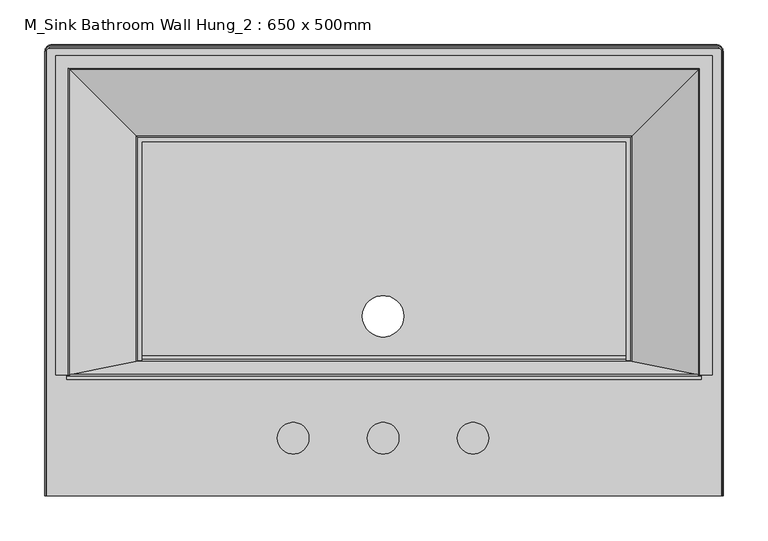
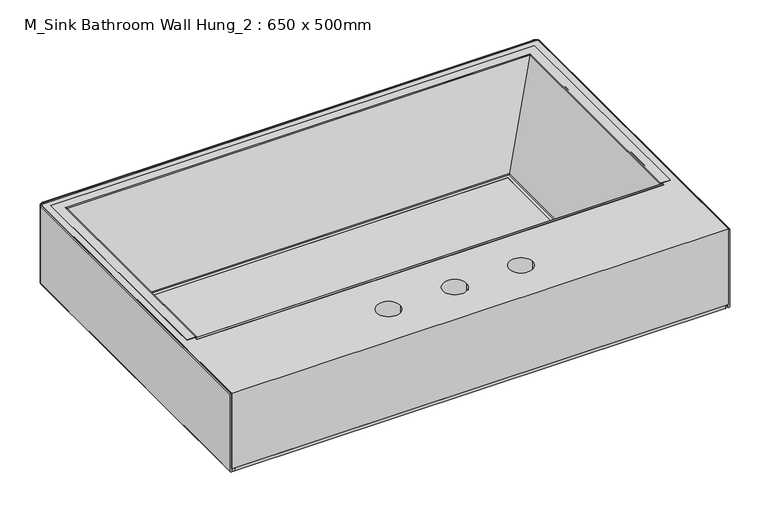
"""IFC4 building model written with IfcOpenShell, lengths in millimetres: flow terminal geometry, M_Sink Bathroom Wall Hung_2 : 650 x 500mm."""

import ifcopenshell
import ifcopenshell.guid

model = None  # the IFC model being written
_history = None  # IfcOwnerHistory: only IFC2X3 demands one
_inside = {}  # id of a spatial element -> (the spatial element, [elements in it])
_under = {}  # id of a project, library or spatial element -> (it, [spatial elements below it])
_declared = {}  # id of a project -> (the project, [libraries it declares])
_typed = {}  # id of a type object -> (the type object, [elements of that type])
_made_of = {}  # id of a material, layer set ... -> (it, [elements and type objects made of it])


def new_model(schema):
    """Start an empty IFC model of exactly this schema.

    Asked for "IFC4X3", IfcOpenShell would pick the latest addendum, in which some entities
    have other attributes; the version numbers below select the first issue.
    IFC2X3 requires an IfcOwnerHistory on every rooted entity: one is made here for all.
    """
    global model, _history
    if schema == "IFC4X3":
        model = ifcopenshell.file(schema_version=(4, 3, 0, 0))
    else:
        model = ifcopenshell.file(schema=schema)
    _inside.clear()
    _under.clear()
    _declared.clear()
    _typed.clear()
    _made_of.clear()
    _history = None
    if model.schema == "IFC2X3":
        org = make("IfcOrganization", Name="unknown")
        user = make(
            "IfcPersonAndOrganization",
            ThePerson=make("IfcPerson", FamilyName="unknown"),
            TheOrganization=org,
        )
        app = make(
            "IfcApplication",
            ApplicationDeveloper=org,
            Version="unknown",
            ApplicationFullName="unknown",
            ApplicationIdentifier="unknown",
        )
        _history = make(
            "IfcOwnerHistory",
            OwningUser=user,
            OwningApplication=app,
            ChangeAction="ADDED",
            CreationDate=0,
        )
    return model


def make(cls, **values):
    """One entity of the class cls with the attributes given. An attribute that is None is left unset."""
    return model.create_entity(
        cls, **{name: value for name, value in values.items() if value is not None}
    )


def rooted(cls, **values):
    """An entity with a GlobalId (a new one), such as an element, a storey or a relation."""
    return make(cls, GlobalId=ifcopenshell.guid.new(), OwnerHistory=_history, **values)


def si_unit(unit_type, name, prefix=None):
    """IfcSIUnit, for example si_unit("LENGTHUNIT", "METRE", prefix="MILLI")."""
    return make("IfcSIUnit", UnitType=unit_type, Prefix=prefix, Name=name)


def assignment(units):
    """IfcUnitAssignment: the units of a project."""
    return None if units is None else make("IfcUnitAssignment", Units=units)


def point(xyz):
    """IfcCartesianPoint."""
    return None if xyz is None else make("IfcCartesianPoint", Coordinates=xyz)


def direction(xyz):
    """IfcDirection."""
    return None if xyz is None else make("IfcDirection", DirectionRatios=xyz)


def frame(location, z_axis=None, x_axis=None):
    """IfcAxis2Placement3D, a coordinate frame: its origin and axes. An axis left out is left unset."""
    return make(
        "IfcAxis2Placement3D",
        Location=point(location),
        Axis=direction(z_axis),
        RefDirection=direction(x_axis),
    )


def frame_2d(location, x_axis=None):
    """IfcAxis2Placement2D, a coordinate frame in the plane: its origin and x axis."""
    return make(
        "IfcAxis2Placement2D", Location=point(location), RefDirection=direction(x_axis)
    )


def origin():
    """The frame at (0, 0, 0) with its axes left unset."""
    return frame((0.0, 0.0, 0.0))


def place(relative_to, where):
    """IfcLocalPlacement: puts the frame where relative to a parent placement (None: the world)."""
    return make(
        "IfcLocalPlacement", PlacementRelTo=relative_to, RelativePlacement=where
    )


def context(
    kind, dimensions, precision=None, world=None, true_north=None, identifier=None
):
    """IfcGeometricRepresentationContext, for example the 3D "Model" context."""
    return make(
        "IfcGeometricRepresentationContext",
        ContextIdentifier=identifier,
        ContextType=kind,
        CoordinateSpaceDimension=dimensions,
        Precision=precision,
        WorldCoordinateSystem=world,
        TrueNorth=true_north,
    )


def project(units=None, contexts=None):
    """IfcProject with its units and contexts."""
    return rooted(
        "IfcProject",
        Name="project",
        RepresentationContexts=contexts,
        UnitsInContext=assignment(units),
    )


def spatial(cls, under=None, at=None, **own):
    """A site, building, storey or space (cls), placed at a placement, below another one or the project."""
    s = rooted(cls, ObjectPlacement=at, **own)
    if under is not None:
        _under.setdefault(under.id(), (under, []))[1].append(s)
    return s


def polyline(points):
    """IfcPolyline through the points."""
    return make("IfcPolyline", Points=[point(p) for p in points])


def circle_curve(where, radius):
    """IfcCircle in the frame where."""
    return make("IfcCircle", Position=where, Radius=radius)


def ellipse_curve(where, semi_axis1, semi_axis2):
    """IfcEllipse in the frame where."""
    return make(
        "IfcEllipse", Position=where, SemiAxis1=semi_axis1, SemiAxis2=semi_axis2
    )


def trimmed(basis, trim1, trim2, sense, master):
    """IfcTrimmedCurve: the piece of a basis curve between two trims."""
    return make(
        "IfcTrimmedCurve",
        BasisCurve=basis,
        Trim1=trim1,
        Trim2=trim2,
        SenseAgreement=sense,
        MasterRepresentation=master,
    )


def segment(curve, same_sense, transition):
    """IfcCompositeCurveSegment."""
    return make(
        "IfcCompositeCurveSegment",
        Transition=transition,
        SameSense=same_sense,
        ParentCurve=curve,
    )


def composite_curve(segments, self_intersect=None):
    """IfcCompositeCurve: segments joined end to end."""
    return make("IfcCompositeCurve", Segments=segments, SelfIntersect=self_intersect)


def outline(outer, holes=None, kind="AREA"):
    """IfcArbitraryClosedProfileDef: a profile drawn as a closed curve; with holes, ...WithVoids."""
    if holes is None:
        return make("IfcArbitraryClosedProfileDef", ProfileType=kind, OuterCurve=outer)
    return make(
        "IfcArbitraryProfileDefWithVoids",
        ProfileType=kind,
        OuterCurve=outer,
        InnerCurves=holes,
    )


def extrude(swept, where, along, depth):
    """IfcExtrudedAreaSolid: the profile swept, set in the frame where, extruded along a direction by depth."""
    return make(
        "IfcExtrudedAreaSolid",
        SweptArea=swept,
        Position=where,
        ExtrudedDirection=direction(along),
        Depth=depth,
    )


def shape(context_of_items, identifier, shape_type, items):
    """IfcShapeRepresentation: the items that make up one representation, for example the "Body"."""
    return make(
        "IfcShapeRepresentation",
        ContextOfItems=context_of_items,
        RepresentationIdentifier=identifier,
        RepresentationType=shape_type,
        Items=items,
    )


def source(mapping_origin, context_of_items, identifier, shape_type, items):
    """IfcRepresentationMap: a shape defined once, which mapped items show again and again."""
    return make(
        "IfcRepresentationMap",
        MappingOrigin=mapping_origin,
        MappedRepresentation=shape(context_of_items, identifier, shape_type, items),
    )


def transform(
    local_origin,
    x_axis=None,
    y_axis=None,
    z_axis=None,
    scale=None,
    scale2=None,
    scale3=None,
    uniform=True,
):
    """IfcCartesianTransformationOperator3D, or its non-uniform kind. x_axis, y_axis, z_axis: its Axis1, 2, 3."""
    if uniform:
        return make(
            "IfcCartesianTransformationOperator3D",
            Axis1=direction(x_axis),
            Axis2=direction(y_axis),
            LocalOrigin=point(local_origin),
            Scale=scale,
            Axis3=direction(z_axis),
        )
    return make(
        "IfcCartesianTransformationOperator3DnonUniform",
        Axis1=direction(x_axis),
        Axis2=direction(y_axis),
        LocalOrigin=point(local_origin),
        Scale=scale,
        Axis3=direction(z_axis),
        Scale2=scale2,
        Scale3=scale3,
    )


def mapped(mapping_source, mapping_target):
    """IfcMappedItem: shows the shape of a source again, moved by a transform."""
    return make(
        "IfcMappedItem", MappingSource=mapping_source, MappingTarget=mapping_target
    )


def made_of(thing, what):
    """Note that an element or type object is made of a material, layer set ...; save() writes the relation."""
    if what is not None:
        _made_of.setdefault(what.id(), (what, []))[1].append(thing)
    return thing


def element(
    cls,
    number,
    at=None,
    inside=None,
    cuts=None,
    type_object=None,
    material=None,
    context=None,
    identifier="Body",
    shape_type=None,
    held_by="IfcProductDefinitionShape",
    body=None,
    shapes=None,
    **own,
):
    """One element of the class cls, such as IfcWall. Its Tag is "e" and its number.

    at: its placement. inside: the storey or other place that contains it. cuts: it is an
    opening in that element (IfcRelVoidsElement). A single representation is given by context,
    identifier, shape_type and body (its items); several are given by shapes. held_by: the class
    of the entity that holds the representations. save() writes the other relations.
    """
    e = rooted(cls, Tag="e%d" % number, ObjectPlacement=at, **own)
    if body is not None:
        shapes = [shape(context, identifier, shape_type, body)]
    if shapes is not None:
        e.Representation = make(held_by, Representations=shapes)
    if inside is not None:
        _inside.setdefault(inside.id(), (inside, []))[1].append(e)
    if cuts is not None:
        rooted(
            "IfcRelVoidsElement", RelatingBuildingElement=cuts, RelatedOpeningElement=e
        )
    if type_object is not None:
        _typed.setdefault(type_object.id(), (type_object, []))[1].append(e)
    return made_of(e, material)


def aggregate(whole, parts):
    """IfcRelAggregates: a whole, such as a stair, and the parts it consists of."""
    return rooted("IfcRelAggregates", RelatingObject=whole, RelatedObjects=parts)


def save(model, path):
    """Write the relations noted so far, then the file.

    IfcRelAggregates (storeys below a building ...), IfcRelContainedInSpatialStructure (elements
    in a storey), IfcRelDefinesByType, IfcRelAssociatesMaterial and IfcRelDeclares: one each for
    every whole, place, type object, material and project.
    """
    for whole, parts in _under.values():
        aggregate(whole, parts)
    for where, things in _inside.values():
        rooted(
            "IfcRelContainedInSpatialStructure",
            RelatedElements=things,
            RelatingStructure=where,
        )
    for kind, things in _typed.values():
        rooted("IfcRelDefinesByType", RelatedObjects=things, RelatingType=kind)
    for what, things in _made_of.values():
        rooted("IfcRelAssociatesMaterial", RelatedObjects=things, RelatingMaterial=what)
    for by, libraries in _declared.values():
        rooted("IfcRelDeclares", RelatingContext=by, RelatedDefinitions=libraries)
    model.write(path)


def plane_surface(at):
    """IfcPlane: the flat surface through the origin of the frame at, square to its z axis."""
    return make("IfcPlane", Position=at)


def cylinder_surface(at, radius):
    """IfcCylindricalSurface: all points at the distance radius from the z axis of the frame at."""
    return make("IfcCylindricalSurface", Position=at, Radius=radius)


def revolved_surface(curve, axis_point, axis_direction):
    """IfcSurfaceOfRevolution: the curve turned about the line through axis_point along axis_direction."""
    return make(
        "IfcSurfaceOfRevolution",
        SweptCurve=make("IfcArbitraryOpenProfileDef", ProfileType="CURVE", Curve=curve),
        AxisPosition=make("IfcAxis1Placement", Location=point(axis_point), Axis=direction(axis_direction)),
    )


def advanced_brep(points, edges, surfaces, faces):
    """IfcAdvancedBrep: a solid bounded by faces that lie on surfaces and meet in shared edges.

    An edge is (start, end): straight between two places in points (the first is 0);
    or (start, end, curve); or (start, end, curve, False) where it runs against its curve.
    A face is (place in surfaces, loops), or (place, loops, False) where it looks against
    its surface's normal. A loop lists edges by number (the first is 1), with a minus sign
    where the edge is run from its end to its start. The first loop is the outer one.
    """
    corners = [point(p) for p in points]
    vertices = [make("IfcVertexPoint", VertexGeometry=c) for c in corners]
    made = []
    for start, end, *more in edges:
        made.append(
            make(
                "IfcEdgeCurve",
                EdgeStart=vertices[start],
                EdgeEnd=vertices[end],
                EdgeGeometry=more[0] if more else make("IfcPolyline", Points=[corners[start], corners[end]]),
                SameSense=more[1] if len(more) > 1 else True,
            )
        )
    hull = []
    for where, loops, *sense in faces:
        bounds = []
        for j, loop in enumerate(loops):
            ring = [make("IfcOrientedEdge", EdgeElement=made[abs(k) - 1], Orientation=k > 0) for k in loop]
            bounds.append(
                make(
                    "IfcFaceOuterBound" if j == 0 else "IfcFaceBound",
                    Bound=make("IfcEdgeLoop", EdgeList=ring),
                    Orientation=True,
                )
            )
        hull.append(make("IfcAdvancedFace", Bounds=bounds, FaceSurface=surfaces[where], SameSense=sense[0] if sense else True))
    return make("IfcAdvancedBrep", Outer=make("IfcClosedShell", CfsFaces=hull))


def m_sink_bathroom_wall_hung_2_650_x_500mm_c227b566(model_context):
    return source(origin(), model_context, "Body", "SolidModel", [
        advanced_brep(
        [(-238.3922513, 210.0, 870.0), (-238.3922513, 210.0, 865.0), (-226.1634933, 210.0, 865.0), (-151.1371736, 210.0, 744.95758), (-143.0390224, 210.0, 744.95758), (-143.0390224, 210.0, 750.0), (-147.2839473, 210.0, 750.0), (-148.9799451, 210.0, 750.9400041), (-222.8047502, 210.0, 869.0599959), (-224.5007481, 210.0, 870.0), (-238.3922513, 564.8610413, 870.0), (-238.3922513, 564.8610413, 865.0), (491.3298313, 564.8610413, 865.0), (491.3298313, 210.0, 865.0), (479.1010733, 210.0, 865.0), (479.1010733, 552.6322833, 865.0), (-226.1634933, 552.6322833, 865.0), (-151.1371736, 477.6059636, 744.95758), (404.0747536, 477.6059636, 744.95758), (404.0747536, 210.0, 744.95758), (395.9766024, 210.0, 744.95758), (395.9766024, 469.5078124, 744.95758), (-143.0390224, 469.5078124, 744.95758), (-143.0390224, 469.5078124, 750.0), (395.9766024, 469.5078124, 750.0), (395.9766024, 210.0, 750.0), (400.2215273, 210.0, 750.0), (400.2215273, 473.7527373, 750.0), (-147.2839473, 473.7527373, 750.0), (-148.9799451, 475.4487351, 750.9400041), (-222.8047502, 549.2735402, 869.0599959), (-224.5007481, 550.9695381, 870.0), (477.4383281, 550.9695381, 870.0), (477.4383281, 210.0, 870.0), (491.3298313, 210.0, 870.0), (491.3298313, 564.8610413, 870.0), (401.9175251, 475.4487351, 750.9400041), (475.7423302, 549.2735402, 869.0599959), (475.7423302, 210.0, 869.0599959), (401.9175251, 210.0, 750.9400041)],
        [
            (0, 1),
            (1, 2),
            (2, 3),
            (3, 4),
            (4, 5),
            (5, 6),
            (6, 7, circle_curve(frame((-147.2839473, 210.0, 752.0), z_axis=(0.0, 1.0, 0.0), x_axis=(-1.0, 0.0, 0.0)), 2.0)),
            (7, 8),
            (8, 9, circle_curve(frame((-224.5007481, 210.0, 868.0), z_axis=(0.0, -1.0, 0.0), x_axis=(-1.0, 0.0, 0.0)), 2.0)),
            (9, 0),
            (0, 10),
            (10, 11),
            (11, 1),
            (11, 12),
            (12, 13),
            (13, 14),
            (14, 15),
            (15, 16),
            (16, 2),
            (16, 17),
            (17, 3),
            (17, 18),
            (18, 19),
            (19, 20),
            (20, 21),
            (21, 22),
            (22, 4),
            (22, 23),
            (23, 5),
            (23, 24),
            (24, 25),
            (25, 26),
            (26, 27),
            (27, 28),
            (28, 6),
            (28, 29, ellipse_curve(frame((-147.2839473, 473.7527373, 752.0), z_axis=(0.7071067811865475, 0.7071067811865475, 0.0), x_axis=(-0.7071067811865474, 0.7071067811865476, 0.0)), 2.8284271, 2.0)),
            (29, 7),
            (29, 30),
            (30, 8),
            (30, 31, ellipse_curve(frame((-224.5007481, 550.9695381, 868.0), z_axis=(-0.7071067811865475, -0.7071067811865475, 0.0), x_axis=(0.7071067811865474, -0.7071067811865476, 0.0)), 2.8284271, 2.0)),
            (31, 9),
            (31, 32),
            (32, 33),
            (33, 34),
            (34, 35),
            (35, 10),
            (35, 12),
            (15, 18),
            (21, 24),
            (27, 36, ellipse_curve(frame((400.2215273, 473.7527373, 752.0), z_axis=(0.7071067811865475, -0.7071067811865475, 0.0), x_axis=(0.7071067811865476, 0.7071067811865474, 0.0)), 2.8284271, 2.0)),
            (36, 29),
            (36, 37),
            (37, 30),
            (37, 32, ellipse_curve(frame((477.4383281, 550.9695381, 868.0), z_axis=(-0.7071067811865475, 0.7071067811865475, 0.0), x_axis=(-0.7071067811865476, -0.7071067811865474, 0.0)), 2.8284271, 2.0)),
            (33, 38, circle_curve(frame((477.4383281, 210.0, 868.0), z_axis=(0.0, -1.0, 0.0), x_axis=(1.0, 0.0, 0.0)), 2.0)),
            (38, 39),
            (39, 26, circle_curve(frame((400.2215273, 210.0, 752.0), z_axis=(0.0, 1.0, 0.0), x_axis=(1.0, 0.0, 0.0)), 2.0)),
            (25, 20),
            (19, 14),
            (13, 34),
            (39, 36),
            (38, 37),
        ],
        [
            plane_surface(frame((-223.53121, 210.0, 750.0), z_axis=(0.0, -1.0, 0.0), x_axis=(0.0, 0.0, 1.0))),
            plane_surface(frame((-238.3922513, 210.0, 870.0), z_axis=(-1.0, 0.0, 0.0), x_axis=(0.0, 1.0, 0.0))),
            plane_surface(frame((-238.3922513, 210.0, 865.0), z_axis=(0.0, 0.0, -1.0), x_axis=(0.0, 1.0, 0.0))),
            plane_surface(frame((-226.1634933, 210.0, 865.0), z_axis=(-0.847998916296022, 0.0, -0.5299979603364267), x_axis=(0.0, 1.0, 0.0))),
            plane_surface(frame((-151.1371736, 210.0, 744.95758), z_axis=(0.0, 0.0, -1.0), x_axis=(0.0, 1.0, 0.0))),
            plane_surface(frame((-143.0390224, 210.0, 744.95758), z_axis=(1.0, 0.0, 0.0), x_axis=(0.0, 1.0, 0.0))),
            plane_surface(frame((-143.0390224, 210.0, 750.0), z_axis=(0.0, 0.0, 1.0), x_axis=(0.0, 1.0, 0.0))),
            revolved_surface(polyline([(-149.2839473, 475.75273728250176, 752.0), (-149.2839473, 210.0, 752.0)]), (-147.2839473, 210.0, 752.0), (0.0, 1.0, 0.0)),
            plane_surface(frame((-148.9799451, 210.0, 750.9400041), z_axis=(0.8479989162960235, 0.0, 0.529997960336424), x_axis=(0.0, 1.0, 0.0))),
            cylinder_surface(frame((-224.5007481, 210.0, 868.0), z_axis=(0.0, -1.0, 0.0), x_axis=(-1.0, 0.0, 0.0)), 2.0),
            plane_surface(frame((-224.5007481, 210.0, 870.0), z_axis=(0.0, 0.0, 1.0), x_axis=(0.0, 1.0, 0.0))),
            plane_surface(frame((-238.3922513, 564.8610413, 870.0), z_axis=(0.0, 1.0, 0.0), x_axis=(1.0, 0.0, 0.0))),
            plane_surface(frame((-226.1634933, 552.6322833, 865.0), z_axis=(0.0, 0.8479989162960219, -0.5299979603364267), x_axis=(1.0, 0.0, 0.0))),
            plane_surface(frame((-143.0390224, 469.5078124, 744.95758), z_axis=(0.0, -1.0, 0.0), x_axis=(1.0, 0.0, 0.0))),
            revolved_surface(polyline([(402.2215272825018, 475.7527373, 752.0), (-149.2839472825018, 475.7527373, 752.0)]), (-223.53121, 473.7527373, 752.0), (1.0, 0.0, 0.0)),
            plane_surface(frame((-148.9799451, 475.4487351, 750.9400041), z_axis=(0.0, -0.8479989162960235, 0.529997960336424), x_axis=(1.0, 0.0, 0.0))),
            cylinder_surface(frame((-223.53121, 550.9695381, 868.0), z_axis=(-1.0, 0.0, 0.0), x_axis=(0.0, 1.0, 0.0)), 2.0),
            plane_surface(frame((476.46879, 210.0, 750.0), z_axis=(0.0, -1.0, 0.0), x_axis=(0.0, 0.0, 1.0))),
            plane_surface(frame((491.3298313, 564.8610413, 870.0), z_axis=(1.0, 0.0, 0.0), x_axis=(0.0, -1.0, 0.0))),
            plane_surface(frame((479.1010733, 552.6322833, 865.0), z_axis=(0.8479989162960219, 0.0, -0.5299979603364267), x_axis=(0.0, -1.0, 0.0))),
            plane_surface(frame((395.9766024, 469.5078124, 744.95758), z_axis=(-1.0, 0.0, 0.0), x_axis=(0.0, -1.0, 0.0))),
            revolved_surface(polyline([(402.2215273, 210.0, 752.0), (402.2215273, 475.7527372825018, 752.0)]), (400.2215273, 550.0, 752.0), (0.0, -1.0, 0.0)),
            plane_surface(frame((401.9175251, 475.4487351, 750.9400041), z_axis=(-0.8479989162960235, 0.0, 0.529997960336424), x_axis=(0.0, -1.0, 0.0))),
            cylinder_surface(frame((477.4383281, 550.0, 868.0), z_axis=(0.0, 1.0, 0.0), x_axis=(1.0, 0.0, 0.0)), 2.0),
        ],
        [
            (0, [[1, 2, 3, 4, 5, 6, 7, 8, 9, 10]]),
            (1, [[-1, 11, 12, 13]]),
            (2, [[-2, -13, 14, 15, 16, 17, 18, 19]]),
            (3, [[-3, -19, 20, 21]]),
            (4, [[-4, -21, 22, 23, 24, 25, 26, 27]]),
            (5, [[-5, -27, 28, 29]]),
            (6, [[-6, -29, 30, 31, 32, 33, 34, 35]]),
            (7, [[-7, -35, 36, 37]]),
            (8, [[-8, -37, 38, 39]]),
            (9, [[-9, -39, 40, 41]]),
            (10, [[-10, -41, 42, 43, 44, 45, 46, -11]]),
            (11, [[-12, -46, 47, -14]]),
            (12, [[-20, -18, 48, -22]]),
            (13, [[-28, -26, 49, -30]]),
            (14, [[-36, -34, 50, 51]]),
            (15, [[-38, -51, 52, 53]]),
            (16, [[-40, -53, 54, -42]]),
            (17, [[-44, 55, 56, 57, -32, 58, -24, 59, -16, 60]]),
            (18, [[-47, -45, -60, -15]]),
            (19, [[-48, -17, -59, -23]]),
            (20, [[-49, -25, -58, -31]]),
            (21, [[-50, -33, -57, 61]]),
            (22, [[-52, -61, -56, 62]]),
            (23, [[-54, -62, -55, -43]]),
        ],
    ),
        extrude(outline(composite_curve([segment(polyline([(210.1022771, 868.2507881), (224.827107, 751.7492119)]), True, "CONTINUOUS"), segment(trimmed(circle_curve(frame_2d((226.811321, 752.0)), 2.0), [point((224.827107, 751.7492119))], [point((226.811321, 750.0))], True, "CARTESIAN"), True, "CONTINUOUS"), segment(polyline([(226.811321, 750.0), (230.6855127, 750.0), (230.6855127, 744.95758), (220.6855127, 744.95758), (204.8811913, 870.0), (208.1180631, 870.0)]), True, "CONTINUOUS"), segment(trimmed(circle_curve(frame_2d((208.1180631, 868.0)), 2.0), [point((208.1180631, 870.0))], [point((210.1022771, 868.2507881))], False, "CARTESIAN"), True, "CONTINUOUS")], self_intersect=False)), frame((-226.1634933, 0.0, 0.0), z_axis=(1.0, 0.0, 0.0), x_axis=(0.0, 1.0, 0.0)), (0.0, 0.0, 1.0), 705.2645665),
        extrude(outline(composite_curve([segment(trimmed(circle_curve(frame_2d((498.46879, 570.0)), 3.0), [point((498.46879, 573.0))], [point((501.46879, 570.0))], False, "CARTESIAN"), True, "CONTINUOUS"), segment(polyline([(501.46879, 570.0), (501.46879, 75.0), (-248.53121, 75.0), (-248.53121, 570.0)]), True, "CONTINUOUS"), segment(trimmed(circle_curve(frame_2d((-245.53121, 570.0)), 3.0), [point((-248.53121, 570.0))], [point((-245.53121, 573.0))], False, "CARTESIAN"), True, "CONTINUOUS"), segment(polyline([(-245.53121, 573.0), (498.46879, 573.0)]), True, "CONTINUOUS")], self_intersect=False), holes=[composite_curve([segment(trimmed(circle_curve(frame_2d((25.51071, 139.360641)), 17.5), [point((8.01071, 139.360641))], [point((43.01071, 139.360641))], True, "CARTESIAN"), True, "CONTINUOUS"), segment(trimmed(circle_curve(frame_2d((25.51071, 139.360641)), 17.5), [point((43.01071, 139.360641))], [point((8.01071, 139.360641))], True, "CARTESIAN"), True, "CONTINUOUS")], self_intersect=False), composite_curve([segment(trimmed(circle_curve(frame_2d((125.51071, 139.360641)), 17.5), [point((108.01071, 139.360641))], [point((143.01071, 139.360641))], True, "CARTESIAN"), True, "CONTINUOUS"), segment(trimmed(circle_curve(frame_2d((125.51071, 139.360641)), 17.5), [point((143.01071, 139.360641))], [point((108.01071, 139.360641))], True, "CARTESIAN"), True, "CONTINUOUS")], self_intersect=False), composite_curve([segment(trimmed(circle_curve(frame_2d((225.51071, 139.360641)), 17.5), [point((243.01071, 139.360641))], [point((208.01071, 139.360641))], True, "CARTESIAN"), True, "CONTINUOUS"), segment(trimmed(circle_curve(frame_2d((225.51071, 139.360641)), 17.5), [point((208.01071, 139.360641))], [point((243.01071, 139.360641))], True, "CARTESIAN"), True, "CONTINUOUS")], self_intersect=False), polyline([(-226.1634933, 550.0), (-226.1634933, 205.0), (479.1010733, 205.0), (479.1010733, 550.0), (-226.1634933, 550.0)])]), frame((0.0, 0.0, 750.0), z_axis=(0.0, 0.0, 1.0), x_axis=(1.0, 0.0, 0.0)), (0.0, 0.0, 1.0), 120.0),
        advanced_brep(
        [(-249.53121, 75.0, 870.0), (-250.53121, 75.0, 869.0), (-250.53121, 75.0, 746.0), (-249.53121, 75.0, 745.0), (-248.53121, 75.0, 745.0), (-248.53121, 75.0, 870.0), (-249.53121, 570.0, 870.0), (-250.53121, 570.0, 869.0), (-250.53121, 570.0, 746.0), (-249.53121, 570.0, 745.0), (-243.53121, 576.0, 745.0), (496.46879, 576.0, 745.0), (502.46879, 570.0, 745.0), (502.46879, 75.0, 745.0), (501.46879, 75.0, 745.0), (501.46879, 570.0, 745.0), (496.46879, 575.0, 745.0), (-243.53121, 575.0, 745.0), (-248.53121, 570.0, 745.0), (-248.53121, 570.0, 870.0), (-243.53121, 575.0, 870.0), (496.46879, 575.0, 870.0), (501.46879, 570.0, 870.0), (501.46879, 75.0, 870.0), (502.46879, 75.0, 870.0), (502.46879, 570.0, 870.0), (496.46879, 576.0, 870.0), (-243.53121, 576.0, 870.0), (-243.53121, 577.0, 869.0), (-243.53121, 577.0, 746.0), (496.46879, 577.0, 869.0), (496.46879, 577.0, 746.0), (503.46879, 570.0, 869.0), (503.46879, 570.0, 746.0), (503.46879, 75.0, 746.0), (503.46879, 75.0, 869.0)],
        [
            (0, 1, circle_curve(frame((-249.53121, 75.0, 869.0), z_axis=(0.0, -1.0, 0.0), x_axis=(-1.0, 0.0, 0.0)), 1.0)),
            (1, 2),
            (2, 3, circle_curve(frame((-249.53121, 75.0, 746.0), z_axis=(0.0, -1.0, 0.0), x_axis=(-1.0, 0.0, 0.0)), 1.0)),
            (3, 4),
            (4, 5),
            (5, 0),
            (0, 6),
            (6, 7, circle_curve(frame((-249.53121, 570.0, 869.0), z_axis=(0.0, -1.0, 0.0), x_axis=(-1.0, 0.0, 0.0)), 1.0)),
            (7, 1),
            (7, 8),
            (8, 2),
            (8, 9, circle_curve(frame((-249.53121, 570.0, 746.0), z_axis=(0.0, -1.0, 0.0), x_axis=(-1.0, 0.0, 0.0)), 1.0)),
            (9, 3),
            (9, 10, circle_curve(frame((-243.53121, 570.0, 745.0), z_axis=(0.0, 0.0, -1.0), x_axis=(-1.0, 0.0, 0.0)), 6.0)),
            (10, 11),
            (11, 12, circle_curve(frame((496.46879, 570.0, 745.0), z_axis=(0.0, 0.0, -1.0), x_axis=(0.0, 1.0, 0.0)), 6.0)),
            (12, 13),
            (13, 14),
            (14, 15),
            (15, 16, circle_curve(frame((496.46879, 570.0, 745.0), z_axis=(0.0, 0.0, 1.0), x_axis=(0.0, 1.0, 0.0)), 5.0)),
            (16, 17),
            (17, 18, circle_curve(frame((-243.53121, 570.0, 745.0), z_axis=(0.0, 0.0, 1.0), x_axis=(-1.0, 0.0, 0.0)), 5.0)),
            (18, 4),
            (18, 19),
            (19, 5),
            (19, 20, circle_curve(frame((-243.53121, 570.0, 870.0), z_axis=(0.0, 0.0, -1.0), x_axis=(-1.0, 0.0, 0.0)), 5.0)),
            (20, 21),
            (21, 22, circle_curve(frame((496.46879, 570.0, 870.0), z_axis=(0.0, 0.0, -1.0), x_axis=(0.0, 1.0, 0.0)), 5.0)),
            (22, 23),
            (23, 24),
            (24, 25),
            (25, 26, circle_curve(frame((496.46879, 570.0, 870.0), z_axis=(0.0, 0.0, 1.0), x_axis=(0.0, 1.0, 0.0)), 6.0)),
            (26, 27),
            (27, 6, circle_curve(frame((-243.53121, 570.0, 870.0), z_axis=(0.0, 0.0, 1.0), x_axis=(-1.0, 0.0, 0.0)), 6.0)),
            (28, 7, circle_curve(frame((-243.53121, 570.0, 869.0), z_axis=(0.0, 0.0, 1.0), x_axis=(-1.0, 0.0, 0.0)), 7.0)),
            (27, 28, circle_curve(frame((-243.53121, 576.0, 869.0), z_axis=(-1.0, 0.0, 0.0), x_axis=(0.0, 1.0, 0.0)), 1.0)),
            (29, 8, circle_curve(frame((-243.53121, 570.0, 746.0), z_axis=(0.0, 0.0, 1.0), x_axis=(-1.0, 0.0, 0.0)), 7.0)),
            (28, 29),
            (29, 10, circle_curve(frame((-243.53121, 576.0, 746.0), z_axis=(-1.0, 0.0, 0.0), x_axis=(0.0, 1.0, 0.0)), 1.0)),
            (17, 20),
            (26, 30, circle_curve(frame((496.46879, 576.0, 869.0), z_axis=(-1.0, 0.0, 0.0), x_axis=(0.0, 1.0, 0.0)), 1.0)),
            (30, 28),
            (30, 31),
            (31, 29),
            (31, 11, circle_curve(frame((496.46879, 576.0, 746.0), z_axis=(-1.0, 0.0, 0.0), x_axis=(0.0, 1.0, 0.0)), 1.0)),
            (16, 21),
            (32, 30, circle_curve(frame((496.46879, 570.0, 869.0), z_axis=(0.0, 0.0, 1.0), x_axis=(0.0, 1.0, 0.0)), 7.0)),
            (25, 32, circle_curve(frame((502.46879, 570.0, 869.0), z_axis=(0.0, 1.0, 0.0), x_axis=(1.0, 0.0, 0.0)), 1.0)),
            (33, 31, circle_curve(frame((496.46879, 570.0, 746.0), z_axis=(0.0, 0.0, 1.0), x_axis=(0.0, 1.0, 0.0)), 7.0)),
            (32, 33),
            (33, 12, circle_curve(frame((502.46879, 570.0, 746.0), z_axis=(0.0, 1.0, 0.0), x_axis=(1.0, 0.0, 0.0)), 1.0)),
            (15, 22),
            (23, 14),
            (13, 34, circle_curve(frame((502.46879, 75.0, 746.0), z_axis=(0.0, -1.0, 0.0), x_axis=(1.0, 0.0, 0.0)), 1.0)),
            (34, 35),
            (35, 24, circle_curve(frame((502.46879, 75.0, 869.0), z_axis=(0.0, -1.0, 0.0), x_axis=(1.0, 0.0, 0.0)), 1.0)),
            (35, 32),
            (34, 33),
        ],
        [
            plane_surface(frame((-248.53121, 75.0, 750.0), z_axis=(0.0, -1.0, 0.0), x_axis=(0.0, 0.0, 1.0))),
            cylinder_surface(frame((-249.53121, 75.0, 869.0), z_axis=(0.0, -1.0, 0.0), x_axis=(-1.0, 0.0, 0.0)), 1.0),
            plane_surface(frame((-250.53121, 75.0, 869.0), z_axis=(-1.0, 0.0, 0.0), x_axis=(0.0, 1.0, 0.0))),
            cylinder_surface(frame((-249.53121, 75.0, 746.0), z_axis=(0.0, -1.0, 0.0), x_axis=(-1.0, 0.0, 0.0)), 1.0),
            plane_surface(frame((-249.53121, 75.0, 745.0), z_axis=(0.0, 0.0, -1.0), x_axis=(0.0, 1.0, 0.0))),
            plane_surface(frame((-248.53121, 75.0, 745.0), z_axis=(1.0, 0.0, 0.0), x_axis=(0.0, 1.0, 0.0))),
            plane_surface(frame((-248.53121, 75.0, 870.0), z_axis=(0.0, 0.0, 1.0), x_axis=(0.0, 1.0, 0.0))),
            revolved_surface(trimmed(ellipse_curve(frame((-249.53121, 570.0, 869.0), z_axis=(0.0, -1.0, 0.0), x_axis=(-1.0, 0.0, 0.0)), 1.0, 1.0), [point((-249.53121, 570.0, 870.0))], [point((-250.53121, 570.0, 869.0))], True, "CARTESIAN"), (-243.53121, 570.0, 750.0), (0.0, 0.0, -1.0)),
            cylinder_surface(frame((-243.53121, 570.0, 750.0), z_axis=(0.0, 0.0, -1.0), x_axis=(-1.0, 0.0, 0.0)), 7.0),
            revolved_surface(trimmed(ellipse_curve(frame((-249.53121, 570.0, 746.0), z_axis=(0.0, -1.0, 0.0), x_axis=(-1.0, 0.0, 0.0)), 1.0, 1.0), [point((-250.53121, 570.0, 746.0))], [point((-249.53121, 570.0, 745.0))], True, "CARTESIAN"), (-243.53121, 570.0, 750.0), (0.0, 0.0, -1.0)),
            revolved_surface(polyline([(-248.53121, 570.0, 745.0), (-248.53121, 570.0, 870.0)]), (-243.53121, 570.0, 750.0), (0.0, 0.0, -1.0)),
            cylinder_surface(frame((-243.53121, 576.0, 869.0), z_axis=(-1.0, 0.0, 0.0), x_axis=(0.0, 1.0, 0.0)), 1.0),
            plane_surface(frame((-243.53121, 577.0, 869.0), z_axis=(0.0, 1.0, 0.0), x_axis=(1.0, 0.0, 0.0))),
            cylinder_surface(frame((-243.53121, 576.0, 746.0), z_axis=(-1.0, 0.0, 0.0), x_axis=(0.0, 1.0, 0.0)), 1.0),
            plane_surface(frame((-243.53121, 575.0, 745.0), z_axis=(0.0, -1.0, 0.0), x_axis=(1.0, 0.0, 0.0))),
            revolved_surface(trimmed(ellipse_curve(frame((496.46879, 576.0, 869.0), z_axis=(-1.0, 0.0, 0.0), x_axis=(0.0, 1.0, 0.0)), 1.0, 1.0), [point((496.46879, 576.0, 870.0))], [point((496.46879, 577.0, 869.0))], True, "CARTESIAN"), (496.46879, 570.0, 750.0), (0.0, 0.0, -1.0)),
            cylinder_surface(frame((496.46879, 570.0, 750.0), z_axis=(0.0, 0.0, -1.0), x_axis=(0.0, 1.0, 0.0)), 7.0),
            revolved_surface(trimmed(ellipse_curve(frame((496.46879, 576.0, 746.0), z_axis=(-1.0, 0.0, 0.0), x_axis=(0.0, 1.0, 0.0)), 1.0, 1.0), [point((496.46879, 577.0, 746.0))], [point((496.46879, 576.0, 745.0))], True, "CARTESIAN"), (496.46879, 570.0, 750.0), (0.0, 0.0, -1.0)),
            revolved_surface(polyline([(496.46879, 575.0, 745.0), (496.46879, 575.0, 870.0)]), (496.46879, 570.0, 750.0), (0.0, 0.0, -1.0)),
            plane_surface(frame((501.46879, 75.0, 750.0), z_axis=(0.0, -1.0, 0.0), x_axis=(0.0, 0.0, 1.0))),
            cylinder_surface(frame((502.46879, 570.0, 869.0), z_axis=(0.0, 1.0, 0.0), x_axis=(1.0, 0.0, 0.0)), 1.0),
            plane_surface(frame((503.46879, 570.0, 869.0), z_axis=(1.0, 0.0, 0.0), x_axis=(0.0, -1.0, 0.0))),
            cylinder_surface(frame((502.46879, 570.0, 746.0), z_axis=(0.0, 1.0, 0.0), x_axis=(1.0, 0.0, 0.0)), 1.0),
            plane_surface(frame((501.46879, 570.0, 745.0), z_axis=(-1.0, 0.0, 0.0), x_axis=(0.0, -1.0, 0.0))),
        ],
        [
            (0, [[1, 2, 3, 4, 5, 6]]),
            (1, [[-1, 7, 8, 9]]),
            (2, [[-2, -9, 10, 11]]),
            (3, [[-3, -11, 12, 13]]),
            (4, [[-4, -13, 14, 15, 16, 17, 18, 19, 20, 21, 22, 23]]),
            (5, [[-5, -23, 24, 25]]),
            (6, [[-6, -25, 26, 27, 28, 29, 30, 31, 32, 33, 34, -7]]),
            (7, [[35, -8, -34, 36]]),
            (8, [[37, -10, -35, 38]]),
            (9, [[-14, -12, -37, 39]]),
            (10, [[-26, -24, -22, 40]]),
            (11, [[-36, -33, 41, 42]]),
            (12, [[-38, -42, 43, 44]]),
            (13, [[-39, -44, 45, -15]]),
            (14, [[-40, -21, 46, -27]]),
            (15, [[47, -41, -32, 48]]),
            (16, [[49, -43, -47, 50]]),
            (17, [[-16, -45, -49, 51]]),
            (18, [[-28, -46, -20, 52]]),
            (19, [[-30, 53, -18, 54, 55, 56]]),
            (20, [[-48, -31, -56, 57]]),
            (21, [[-50, -57, -55, 58]]),
            (22, [[-51, -58, -54, -17]]),
            (23, [[-52, -19, -53, -29]]),
        ],
    ),
        extrude(outline(composite_curve([segment(trimmed(circle_curve(frame_2d((-243.53121, 570.0)), 5.0), [point((-248.53121, 570.0))], [point((-243.53121, 575.0))], False, "CARTESIAN"), True, "CONTINUOUS"), segment(polyline([(-243.53121, 575.0), (496.46879, 575.0)]), True, "CONTINUOUS"), segment(trimmed(circle_curve(frame_2d((496.46879, 570.0)), 5.0), [point((496.46879, 575.0))], [point((501.46879, 570.0))], False, "CARTESIAN"), True, "CONTINUOUS"), segment(polyline([(501.46879, 570.0), (501.46879, 80.0)]), True, "CONTINUOUS"), segment(trimmed(circle_curve(frame_2d((496.46879, 80.0)), 5.0), [point((501.46879, 80.0))], [point((496.46879, 75.0))], False, "CARTESIAN"), True, "CONTINUOUS"), segment(polyline([(496.46879, 75.0), (-243.53121, 75.0)]), True, "CONTINUOUS"), segment(trimmed(circle_curve(frame_2d((-243.53121, 80.0)), 5.0), [point((-243.53121, 75.0))], [point((-248.53121, 80.0))], False, "CARTESIAN"), True, "CONTINUOUS"), segment(polyline([(-248.53121, 80.0), (-248.53121, 570.0)]), True, "CONTINUOUS")], self_intersect=False), holes=[composite_curve([segment(trimmed(circle_curve(frame_2d((125.5105, 275.0)), 23.0), [point((148.5105, 275.0))], [point((102.5105, 275.0))], True, "CARTESIAN"), True, "CONTINUOUS"), segment(trimmed(circle_curve(frame_2d((125.5105, 275.0)), 23.0), [point((102.5105, 275.0))], [point((148.5105, 275.0))], True, "CARTESIAN"), True, "CONTINUOUS")], self_intersect=False)]), frame((0.0, 0.0, 744.95758), z_axis=(0.0, 0.0, 1.0), x_axis=(1.0, 0.0, 0.0)), (0.0, 0.0, 1.0), 5.04242),
    ])


if __name__ == "__main__":
    model = new_model("IFC4")
    model_context = context("Model", 3, world=origin())
    ifc_project = project(units=[si_unit("LENGTHUNIT", "METRE", prefix="MILLI")], contexts=[model_context])
    site = spatial("IfcSite", under=ifc_project)
    building = spatial("IfcBuilding", under=site)
    placement = place(None, origin())
    m_sink_bathroom_wall_hung_2_650_x_500mm_shape = m_sink_bathroom_wall_hung_2_650_x_500mm_c227b566(model_context)
    element("IfcFlowTerminal", 1, ObjectType="M_Sink Bathroom Wall Hung_2 : 650 x 500mm", at=placement, inside=building, context=model_context, shape_type="MappedRepresentation", body=[
        mapped(m_sink_bathroom_wall_hung_2_650_x_500mm_shape, transform((0.0, 0.0, 0.0), x_axis=(1.0, 0.0, 0.0), y_axis=(0.0, 1.0, 0.0), z_axis=(0.0, 0.0, 1.0))),
    ])
    save(model, "model.ifc")
